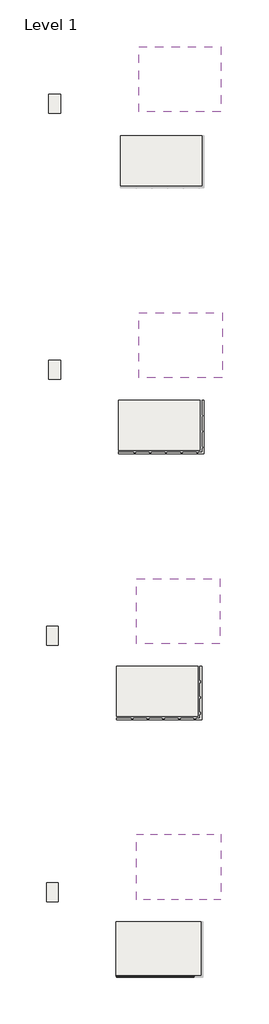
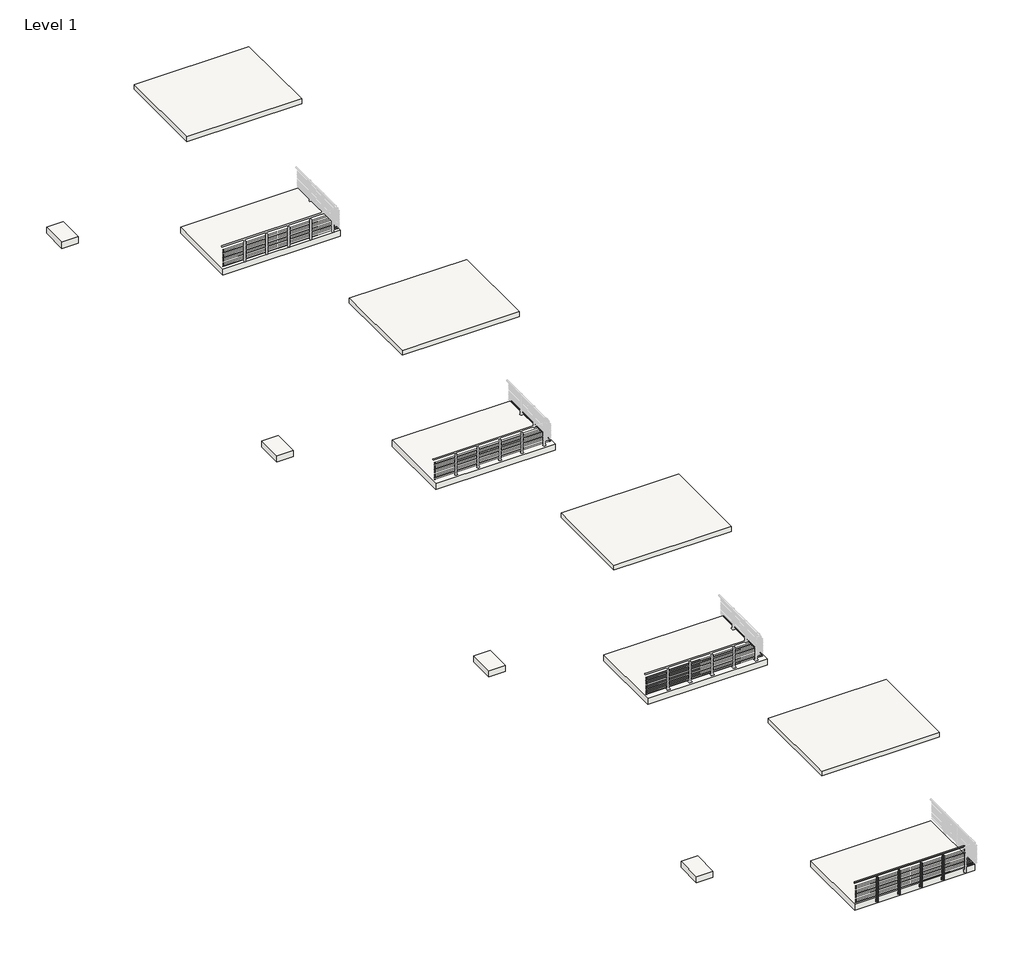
# One storey, part 1 of 9: 12 slabs, 1 railing.
"""IFC4 building model written with IfcOpenShell, lengths in millimetres."""

from ifc_helpers import new_model, si_unit, point, frame, frame_2d, origin, place, context, project, spatial, polyline, circle_curve, trimmed, segment, composite_curve, outline, extrude, element, save
from ifc_brep_helpers import plane_surface, cylinder_surface, advanced_brep

model = new_model("IFC4")

# Units and contexts
model_context = context("Model", 3, world=origin())
ifc_project = project(units=[si_unit("LENGTHUNIT", "METRE", prefix="MILLI")], contexts=[model_context])

# Site, building, storey
site = spatial("IfcSite", under=ifc_project)
building = spatial("IfcBuilding", under=site)
storey = spatial("IfcBuildingStorey", under=building, Name="Level 1", Elevation=0.0)

# Railing
placement = place(None, origin())
element("IfcRailing", 1, ObjectType="VIVA-TEE-Cable-Fascia Mount-Straight", at=placement, inside=storey, context=model_context, shape_type="SolidModel", body=[
    advanced_brep(
    [(-5400.3174408, -57199.6734719, 1054.1), (-5400.3174408, -57148.8734719, 1054.1), (-10480.3174408, -57148.8734719, 1054.1), (-10480.3174408, -57199.6734719, 1054.1), (-10490.0466343, -57199.6734719, 1054.1), (-10490.0466343, -57148.8734719, 1054.1)],
    [
        (0, 1, circle_curve(frame((-5400.3174408, -57174.2734719, 1054.1), z_axis=(1.0, 0.0, 0.0), x_axis=(0.0, 1.0, 0.0)), 25.4)),
        (1, 0, circle_curve(frame((-5400.3174408, -57174.2734719, 1054.1), z_axis=(1.0, 0.0, 0.0), x_axis=(0.0, 1.0, 0.0)), 25.4)),
        (2, 3, circle_curve(frame((-10480.3174408, -57174.2734719, 1054.1), z_axis=(1.0, 0.0, 0.0), x_axis=(0.0, 1.0, 0.0)), 25.4)),
        (3, 0),
        (1, 2),
        (3, 2, circle_curve(frame((-10480.3174408, -57174.2734719, 1054.1), z_axis=(1.0, 0.0, 0.0), x_axis=(0.0, 1.0, 0.0)), 25.4)),
        (4, 5, circle_curve(frame((-10490.0466343, -57174.2734719, 1054.1), z_axis=(-1.0, 0.0, 0.0), x_axis=(0.0, 1.0, 0.0)), 25.4)),
        (5, 4, circle_curve(frame((-10490.0466343, -57174.2734719, 1054.1), z_axis=(-1.0, 0.0, 0.0), x_axis=(0.0, 1.0, 0.0)), 25.4)),
        (4, 3),
        (2, 5),
    ],
    [
        plane_surface(frame((-5400.3174408, -57174.2734719, 1079.5), z_axis=(1.0, 0.0, 0.0), x_axis=(0.0, 1.0, 0.0))),
        cylinder_surface(frame((-10480.3174408, -57174.2734719, 1054.1), z_axis=(-1.0, 0.0, 0.0), x_axis=(0.0, 1.0, 0.0)), 25.4),
        plane_surface(frame((-10490.0466343, -57174.2734719, 1079.5), z_axis=(-1.0, 0.0, 0.0), x_axis=(0.0, 1.0, 0.0))),
        cylinder_surface(frame((-10490.0466343, -57174.2734719, 1054.1), z_axis=(-1.0, 0.0, 0.0), x_axis=(0.0, 1.0, 0.0)), 25.4),
    ],
    [
        (0, [[1, 2]]),
        (1, [[3, 4, -2, 5]]),
        (1, [[6, -5, -1, -4]]),
        (2, [[7, 8]]),
        (3, [[-7, 9, -3, 10]]),
        (3, [[-8, -10, -6, -9]]),
    ],
),
    extrude(outline(composite_curve([segment(trimmed(circle_curve(frame_2d((-57235.2334719, 937.4124)), 2.3876), [point((-57232.8458719, 937.4124))], [point((-57237.6210719, 937.4124))], False, "CARTESIAN"), True, "CONTINUOUS"), segment(trimmed(circle_curve(frame_2d((-57235.2334719, 937.4124)), 2.3876), [point((-57237.6210719, 937.4124))], [point((-57232.8458719, 937.4124))], False, "CARTESIAN"), True, "CONTINUOUS")], self_intersect=False)), frame((-10480.3174408, 0.0, 0.0), z_axis=(1.0, 0.0, 0.0), x_axis=(0.0, 1.0, 0.0)), (0.0, 0.0, 1.0), 5080.0),
    extrude(outline(composite_curve([segment(trimmed(circle_curve(frame_2d((-57235.2334719, 854.8624)), 2.3876), [point((-57232.8458719, 854.8624))], [point((-57237.6210719, 854.8624))], False, "CARTESIAN"), True, "CONTINUOUS"), segment(trimmed(circle_curve(frame_2d((-57235.2334719, 854.8624)), 2.3876), [point((-57237.6210719, 854.8624))], [point((-57232.8458719, 854.8624))], False, "CARTESIAN"), True, "CONTINUOUS")], self_intersect=False)), frame((-10480.3174408, 0.0, 0.0), z_axis=(1.0, 0.0, 0.0), x_axis=(0.0, 1.0, 0.0)), (0.0, 0.0, 1.0), 5080.0),
    extrude(outline(composite_curve([segment(trimmed(circle_curve(frame_2d((-57235.2334719, 772.3124)), 2.3876), [point((-57232.8458719, 772.3124))], [point((-57237.6210719, 772.3124))], False, "CARTESIAN"), True, "CONTINUOUS"), segment(trimmed(circle_curve(frame_2d((-57235.2334719, 772.3124)), 2.3876), [point((-57237.6210719, 772.3124))], [point((-57232.8458719, 772.3124))], False, "CARTESIAN"), True, "CONTINUOUS")], self_intersect=False)), frame((-10480.3174408, 0.0, 0.0), z_axis=(1.0, 0.0, 0.0), x_axis=(0.0, 1.0, 0.0)), (0.0, 0.0, 1.0), 5080.0),
    extrude(outline(composite_curve([segment(trimmed(circle_curve(frame_2d((-57235.2334719, 689.7624)), 2.3876), [point((-57232.8458719, 689.7624))], [point((-57237.6210719, 689.7624))], False, "CARTESIAN"), True, "CONTINUOUS"), segment(trimmed(circle_curve(frame_2d((-57235.2334719, 689.7624)), 2.3876), [point((-57237.6210719, 689.7624))], [point((-57232.8458719, 689.7624))], False, "CARTESIAN"), True, "CONTINUOUS")], self_intersect=False)), frame((-10480.3174408, 0.0, 0.0), z_axis=(1.0, 0.0, 0.0), x_axis=(0.0, 1.0, 0.0)), (0.0, 0.0, 1.0), 5080.0),
    extrude(outline(composite_curve([segment(trimmed(circle_curve(frame_2d((-57235.2334719, 607.2124)), 2.3876), [point((-57232.8458719, 607.2124))], [point((-57237.6210719, 607.2124))], False, "CARTESIAN"), True, "CONTINUOUS"), segment(trimmed(circle_curve(frame_2d((-57235.2334719, 607.2124)), 2.3876), [point((-57237.6210719, 607.2124))], [point((-57232.8458719, 607.2124))], False, "CARTESIAN"), True, "CONTINUOUS")], self_intersect=False)), frame((-10480.3174408, 0.0, 0.0), z_axis=(1.0, 0.0, 0.0), x_axis=(0.0, 1.0, 0.0)), (0.0, 0.0, 1.0), 5080.0),
    extrude(outline(composite_curve([segment(trimmed(circle_curve(frame_2d((-57235.2334719, 524.6624)), 2.3876), [point((-57232.8458719, 524.6624))], [point((-57237.6210719, 524.6624))], False, "CARTESIAN"), True, "CONTINUOUS"), segment(trimmed(circle_curve(frame_2d((-57235.2334719, 524.6624)), 2.3876), [point((-57237.6210719, 524.6624))], [point((-57232.8458719, 524.6624))], False, "CARTESIAN"), True, "CONTINUOUS")], self_intersect=False)), frame((-10480.3174408, 0.0, 0.0), z_axis=(1.0, 0.0, 0.0), x_axis=(0.0, 1.0, 0.0)), (0.0, 0.0, 1.0), 5080.0),
    extrude(outline(composite_curve([segment(trimmed(circle_curve(frame_2d((-57235.2334719, 442.1124)), 2.3876), [point((-57232.8458719, 442.1124))], [point((-57237.6210719, 442.1124))], False, "CARTESIAN"), True, "CONTINUOUS"), segment(trimmed(circle_curve(frame_2d((-57235.2334719, 442.1124)), 2.3876), [point((-57237.6210719, 442.1124))], [point((-57232.8458719, 442.1124))], False, "CARTESIAN"), True, "CONTINUOUS")], self_intersect=False)), frame((-10480.3174408, 0.0, 0.0), z_axis=(1.0, 0.0, 0.0), x_axis=(0.0, 1.0, 0.0)), (0.0, 0.0, 1.0), 5080.0),
    extrude(outline(composite_curve([segment(trimmed(circle_curve(frame_2d((-57235.2334719, 359.5624)), 2.3876), [point((-57232.8458719, 359.5624))], [point((-57237.6210719, 359.5624))], False, "CARTESIAN"), True, "CONTINUOUS"), segment(trimmed(circle_curve(frame_2d((-57235.2334719, 359.5624)), 2.3876), [point((-57237.6210719, 359.5624))], [point((-57232.8458719, 359.5624))], False, "CARTESIAN"), True, "CONTINUOUS")], self_intersect=False)), frame((-10480.3174408, 0.0, 0.0), z_axis=(1.0, 0.0, 0.0), x_axis=(0.0, 1.0, 0.0)), (0.0, 0.0, 1.0), 5080.0),
    extrude(outline(composite_curve([segment(trimmed(circle_curve(frame_2d((-57235.2334719, 277.0124)), 2.3876), [point((-57232.8458719, 277.0124))], [point((-57237.6210719, 277.0124))], False, "CARTESIAN"), True, "CONTINUOUS"), segment(trimmed(circle_curve(frame_2d((-57235.2334719, 277.0124)), 2.3876), [point((-57237.6210719, 277.0124))], [point((-57232.8458719, 277.0124))], False, "CARTESIAN"), True, "CONTINUOUS")], self_intersect=False)), frame((-10480.3174408, 0.0, 0.0), z_axis=(1.0, 0.0, 0.0), x_axis=(0.0, 1.0, 0.0)), (0.0, 0.0, 1.0), 5080.0),
    extrude(outline(composite_curve([segment(trimmed(circle_curve(frame_2d((-57235.2334719, 194.4624)), 2.3876), [point((-57232.8458719, 194.4624))], [point((-57237.6210719, 194.4624))], False, "CARTESIAN"), True, "CONTINUOUS"), segment(trimmed(circle_curve(frame_2d((-57235.2334719, 194.4624)), 2.3876), [point((-57237.6210719, 194.4624))], [point((-57232.8458719, 194.4624))], False, "CARTESIAN"), True, "CONTINUOUS")], self_intersect=False)), frame((-10480.3174408, 0.0, 0.0), z_axis=(1.0, 0.0, 0.0), x_axis=(0.0, 1.0, 0.0)), (0.0, 0.0, 1.0), 5080.0),
    extrude(outline(composite_curve([segment(trimmed(circle_curve(frame_2d((-57235.2334719, 111.9124)), 2.3876), [point((-57232.8458719, 111.9124))], [point((-57237.6210719, 111.9124))], False, "CARTESIAN"), True, "CONTINUOUS"), segment(trimmed(circle_curve(frame_2d((-57235.2334719, 111.9124)), 2.3876), [point((-57237.6210719, 111.9124))], [point((-57232.8458719, 111.9124))], False, "CARTESIAN"), True, "CONTINUOUS")], self_intersect=False)), frame((-10480.3174408, 0.0, 0.0), z_axis=(1.0, 0.0, 0.0), x_axis=(0.0, 1.0, 0.0)), (0.0, 0.0, 1.0), 5080.0),
    extrude(outline(composite_curve([segment(trimmed(circle_curve(frame_2d((0.0, 7.0)), 7.0), [point((0.0, 14.0))], [point((0.0, 0.0))], False, "CARTESIAN"), True, "CONTINUOUS"), segment(trimmed(circle_curve(frame_2d((0.0, 7.0)), 7.0), [point((0.0, 0.0))], [point((0.0, 14.0))], False, "CARTESIAN"), True, "CONTINUOUS")], self_intersect=False)), frame((-6416.2437309, -57181.6183256, 949.1832524), z_axis=(0.004253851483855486, 0.0, 0.9999909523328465), x_axis=(0.9999909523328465, 0.0, -0.004253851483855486)), (0.0, 0.0, 1.0), 75.97),
    extrude(outline(composite_curve([segment(trimmed(circle_curve(frame_2d((-57174.4769216, 1047.2025651)), 19.05), [point((-57188.0065099, 1033.7916463))], [point((-57160.9473334, 1033.7916463))], True, "CARTESIAN"), True, "CONTINUOUS"), segment(polyline([(-57160.9473334, 1033.7916463), (-57159.9209438, 1032.7742593)]), True, "CONTINUOUS"), segment(trimmed(circle_curve(frame_2d((-57160.9769216, 1031.7089374)), 1.5), [point((-57159.9209438, 1032.7742593))], [point((-57159.9915202, 1030.5780156))], False, "CARTESIAN"), True, "CONTINUOUS"), segment(trimmed(circle_curve(frame_2d((-57174.4769216, 1047.2025651)), 22.05), [point((-57159.9915202, 1030.5780156))], [point((-57188.9623231, 1030.5780156))], False, "CARTESIAN"), True, "CONTINUOUS"), segment(trimmed(circle_curve(frame_2d((-57187.9769216, 1031.7089374)), 1.5), [point((-57188.9623231, 1030.5780156))], [point((-57189.0328995, 1032.7742593))], False, "CARTESIAN"), True, "CONTINUOUS"), segment(polyline([(-57189.0328995, 1032.7742593), (-57188.0065099, 1033.7916463)]), True, "CONTINUOUS")], self_intersect=False)), frame((-6451.7822051, 0.0, 0.0), z_axis=(1.0, 0.0, 0.0), x_axis=(0.0, 1.0, 0.0)), (0.0, 0.0, 1.0), 74.5229187),
    extrude(outline(composite_curve([segment(trimmed(circle_curve(frame_2d((976.1259188, -6416.0394005)), 12.5), [point((976.1259188, -6428.5394005))], [point((976.1259188, -6403.5394005))], False, "CARTESIAN"), True, "CONTINUOUS"), segment(trimmed(circle_curve(frame_2d((976.1259188, -6416.0394005)), 12.5), [point((976.1259188, -6403.5394005))], [point((976.1259188, -6428.5394005))], False, "CARTESIAN"), True, "CONTINUOUS")], self_intersect=False)), frame((0.0, -57254.3843116, 0.0), z_axis=(0.0, 1.0, 0.0), x_axis=(0.0, 0.0, 1.0)), (0.0, 0.0, 1.0), 92.423),
    extrude(outline(polyline([(-6352.4205658, -57184.4334719), (-6352.4205658, -57197.3159234), (-6479.4205658, -57197.3159234), (-6479.4205658, -57184.4334719), (-6352.4205658, -57184.4334719)])), frame((0.0, 0.0, -196.85), z_axis=(0.0, 0.0, 1.0), x_axis=(1.0, 0.0, 0.0)), (0.0, 0.0, 1.0), 127.0),
    extrude(outline(composite_curve([segment(trimmed(circle_curve(frame_2d((-57228.2180203, 924.2425)), 24.765), [point((-57228.2180203, 949.0075))], [point((-57203.4530203, 924.2425))], False, "CARTESIAN"), True, "CONTINUOUS"), segment(polyline([(-57203.4530203, 924.2425), (-57203.4530203, -196.85), (-57254.2834719, -196.85), (-57254.2834719, 949.0075), (-57228.2180203, 949.0075)]), True, "CONTINUOUS")], self_intersect=False)), frame((-6401.9170662, 0.0, 0.0), z_axis=(1.0, 0.0, 0.0), x_axis=(0.0, 1.0, 0.0)), (0.0, 0.0, 1.0), 9.525),
    extrude(outline(polyline([(-6411.1580658, -57197.3159234), (-6352.4205658, -57197.3159234), (-6352.4205658, -57205.2534234), (-6403.2205658, -57205.2534234), (-6403.2205658, -57254.2834719), (-6411.1580658, -57254.2834719), (-6411.1580658, -57197.3159234)])), frame((0.0, 0.0, -196.85), z_axis=(0.0, 0.0, 1.0), x_axis=(1.0, 0.0, 0.0)), (0.0, 0.0, 1.0), 127.0),
    extrude(outline(polyline([(-6420.6830658, -57197.3159234), (-6420.6830658, -57254.2834719), (-6428.6205658, -57254.2834719), (-6428.6205658, -57205.2534234), (-6479.4205658, -57205.2534234), (-6479.4205658, -57197.3159234), (-6420.6830658, -57197.3159234)])), frame((0.0, 0.0, -196.85), z_axis=(0.0, 0.0, 1.0), x_axis=(1.0, 0.0, 0.0)), (0.0, 0.0, 1.0), 127.0),
    extrude(outline(composite_curve([segment(polyline([(-196.85, -6390.5205658), (979.17, -6390.5205658)]), True, "CONTINUOUS"), segment(trimmed(circle_curve(frame_2d((979.17, -6415.9205658)), 25.4), [point((979.17, -6390.5205658))], [point((979.17, -6441.3205658))], False, "CARTESIAN"), True, "CONTINUOUS"), segment(polyline([(979.17, -6441.3205658), (-196.85, -6441.3205658), (-196.85, -6390.5205658)]), True, "CONTINUOUS")], self_intersect=False)), frame((0.0, -57263.8084719, 0.0), z_axis=(0.0, 1.0, 0.0), x_axis=(0.0, 0.0, 1.0)), (0.0, 0.0, 1.0), 9.525),
    extrude(outline(composite_curve([segment(trimmed(circle_curve(frame_2d((-57228.2180203, 924.2425)), 24.765), [point((-57228.2180203, 949.0075))], [point((-57203.4530203, 924.2425))], False, "CARTESIAN"), True, "CONTINUOUS"), segment(polyline([(-57203.4530203, 924.2425), (-57203.4530203, -196.85), (-57254.2834719, -196.85), (-57254.2834719, 949.0075), (-57228.2180203, 949.0075)]), True, "CONTINUOUS")], self_intersect=False)), frame((-6439.4490654, 0.0, 0.0), z_axis=(1.0, 0.0, 0.0), x_axis=(0.0, 1.0, 0.0)), (0.0, 0.0, 1.0), 9.525),
    extrude(outline(composite_curve([segment(trimmed(circle_curve(frame_2d((0.0, 7.0)), 7.0), [point((0.0, 14.0))], [point((0.0, 0.0))], False, "CARTESIAN"), True, "CONTINUOUS"), segment(trimmed(circle_curve(frame_2d((0.0, 7.0)), 7.0), [point((0.0, 0.0))], [point((0.0, 14.0))], False, "CARTESIAN"), True, "CONTINUOUS")], self_intersect=False)), frame((-7432.2437309, -57181.6183256, 949.1832524), z_axis=(0.004253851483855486, 0.0, 0.9999909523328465), x_axis=(0.9999909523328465, 0.0, -0.004253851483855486)), (0.0, 0.0, 1.0), 75.97),
    extrude(outline(composite_curve([segment(trimmed(circle_curve(frame_2d((-57174.4769216, 1047.2025651)), 19.05), [point((-57188.0065099, 1033.7916463))], [point((-57160.9473334, 1033.7916463))], True, "CARTESIAN"), True, "CONTINUOUS"), segment(polyline([(-57160.9473334, 1033.7916463), (-57159.9209438, 1032.7742593)]), True, "CONTINUOUS"), segment(trimmed(circle_curve(frame_2d((-57160.9769216, 1031.7089374)), 1.5), [point((-57159.9209438, 1032.7742593))], [point((-57159.9915202, 1030.5780156))], False, "CARTESIAN"), True, "CONTINUOUS"), segment(trimmed(circle_curve(frame_2d((-57174.4769216, 1047.2025651)), 22.05), [point((-57159.9915202, 1030.5780156))], [point((-57188.9623231, 1030.5780156))], False, "CARTESIAN"), True, "CONTINUOUS"), segment(trimmed(circle_curve(frame_2d((-57187.9769216, 1031.7089374)), 1.5), [point((-57188.9623231, 1030.5780156))], [point((-57189.0328995, 1032.7742593))], False, "CARTESIAN"), True, "CONTINUOUS"), segment(polyline([(-57189.0328995, 1032.7742593), (-57188.0065099, 1033.7916463)]), True, "CONTINUOUS")], self_intersect=False)), frame((-7467.7822051, 0.0, 0.0), z_axis=(1.0, 0.0, 0.0), x_axis=(0.0, 1.0, 0.0)), (0.0, 0.0, 1.0), 74.5229187),
    extrude(outline(composite_curve([segment(trimmed(circle_curve(frame_2d((976.1259188, -7432.0394005)), 12.5), [point((976.1259188, -7444.5394005))], [point((976.1259188, -7419.5394005))], False, "CARTESIAN"), True, "CONTINUOUS"), segment(trimmed(circle_curve(frame_2d((976.1259188, -7432.0394005)), 12.5), [point((976.1259188, -7419.5394005))], [point((976.1259188, -7444.5394005))], False, "CARTESIAN"), True, "CONTINUOUS")], self_intersect=False)), frame((0.0, -57254.3843116, 0.0), z_axis=(0.0, 1.0, 0.0), x_axis=(0.0, 0.0, 1.0)), (0.0, 0.0, 1.0), 92.423),
    extrude(outline(polyline([(-7368.4205658, -57184.4334719), (-7368.4205658, -57197.3159234), (-7495.4205658, -57197.3159234), (-7495.4205658, -57184.4334719), (-7368.4205658, -57184.4334719)])), frame((0.0, 0.0, -196.85), z_axis=(0.0, 0.0, 1.0), x_axis=(1.0, 0.0, 0.0)), (0.0, 0.0, 1.0), 127.0),
    extrude(outline(composite_curve([segment(trimmed(circle_curve(frame_2d((-57228.2180203, 924.2425)), 24.765), [point((-57228.2180203, 949.0075))], [point((-57203.4530203, 924.2425))], False, "CARTESIAN"), True, "CONTINUOUS"), segment(polyline([(-57203.4530203, 924.2425), (-57203.4530203, -196.85), (-57254.2834719, -196.85), (-57254.2834719, 949.0075), (-57228.2180203, 949.0075)]), True, "CONTINUOUS")], self_intersect=False)), frame((-7417.9170662, 0.0, 0.0), z_axis=(1.0, 0.0, 0.0), x_axis=(0.0, 1.0, 0.0)), (0.0, 0.0, 1.0), 9.525),
    extrude(outline(polyline([(-7427.1580658, -57197.3159234), (-7368.4205658, -57197.3159234), (-7368.4205658, -57205.2534234), (-7419.2205658, -57205.2534234), (-7419.2205658, -57254.2834719), (-7427.1580658, -57254.2834719), (-7427.1580658, -57197.3159234)])), frame((0.0, 0.0, -196.85), z_axis=(0.0, 0.0, 1.0), x_axis=(1.0, 0.0, 0.0)), (0.0, 0.0, 1.0), 127.0),
    extrude(outline(polyline([(-7436.6830658, -57197.3159234), (-7436.6830658, -57254.2834719), (-7444.6205658, -57254.2834719), (-7444.6205658, -57205.2534234), (-7495.4205658, -57205.2534234), (-7495.4205658, -57197.3159234), (-7436.6830658, -57197.3159234)])), frame((0.0, 0.0, -196.85), z_axis=(0.0, 0.0, 1.0), x_axis=(1.0, 0.0, 0.0)), (0.0, 0.0, 1.0), 127.0),
    extrude(outline(composite_curve([segment(polyline([(-196.85, -7406.5205658), (979.17, -7406.5205658)]), True, "CONTINUOUS"), segment(trimmed(circle_curve(frame_2d((979.17, -7431.9205658)), 25.4), [point((979.17, -7406.5205658))], [point((979.17, -7457.3205658))], False, "CARTESIAN"), True, "CONTINUOUS"), segment(polyline([(979.17, -7457.3205658), (-196.85, -7457.3205658), (-196.85, -7406.5205658)]), True, "CONTINUOUS")], self_intersect=False)), frame((0.0, -57263.8084719, 0.0), z_axis=(0.0, 1.0, 0.0), x_axis=(0.0, 0.0, 1.0)), (0.0, 0.0, 1.0), 9.525),
    extrude(outline(composite_curve([segment(trimmed(circle_curve(frame_2d((-57228.2180203, 924.2425)), 24.765), [point((-57228.2180203, 949.0075))], [point((-57203.4530203, 924.2425))], False, "CARTESIAN"), True, "CONTINUOUS"), segment(polyline([(-57203.4530203, 924.2425), (-57203.4530203, -196.85), (-57254.2834719, -196.85), (-57254.2834719, 949.0075), (-57228.2180203, 949.0075)]), True, "CONTINUOUS")], self_intersect=False)), frame((-7455.4490654, 0.0, 0.0), z_axis=(1.0, 0.0, 0.0), x_axis=(0.0, 1.0, 0.0)), (0.0, 0.0, 1.0), 9.525),
    extrude(outline(composite_curve([segment(trimmed(circle_curve(frame_2d((0.0, 7.0)), 7.0), [point((0.0, 14.0))], [point((0.0, 0.0))], False, "CARTESIAN"), True, "CONTINUOUS"), segment(trimmed(circle_curve(frame_2d((0.0, 7.0)), 7.0), [point((0.0, 0.0))], [point((0.0, 14.0))], False, "CARTESIAN"), True, "CONTINUOUS")], self_intersect=False)), frame((-8448.2437309, -57181.6183256, 949.1832524), z_axis=(0.004253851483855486, 0.0, 0.9999909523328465), x_axis=(0.9999909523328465, 0.0, -0.004253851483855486)), (0.0, 0.0, 1.0), 75.97),
    extrude(outline(composite_curve([segment(trimmed(circle_curve(frame_2d((-57174.4769216, 1047.2025651)), 19.05), [point((-57188.0065099, 1033.7916463))], [point((-57160.9473334, 1033.7916463))], True, "CARTESIAN"), True, "CONTINUOUS"), segment(polyline([(-57160.9473334, 1033.7916463), (-57159.9209438, 1032.7742593)]), True, "CONTINUOUS"), segment(trimmed(circle_curve(frame_2d((-57160.9769216, 1031.7089374)), 1.5), [point((-57159.9209438, 1032.7742593))], [point((-57159.9915202, 1030.5780156))], False, "CARTESIAN"), True, "CONTINUOUS"), segment(trimmed(circle_curve(frame_2d((-57174.4769216, 1047.2025651)), 22.05), [point((-57159.9915202, 1030.5780156))], [point((-57188.9623231, 1030.5780156))], False, "CARTESIAN"), True, "CONTINUOUS"), segment(trimmed(circle_curve(frame_2d((-57187.9769216, 1031.7089374)), 1.5), [point((-57188.9623231, 1030.5780156))], [point((-57189.0328995, 1032.7742593))], False, "CARTESIAN"), True, "CONTINUOUS"), segment(polyline([(-57189.0328995, 1032.7742593), (-57188.0065099, 1033.7916463)]), True, "CONTINUOUS")], self_intersect=False)), frame((-8483.7822051, 0.0, 0.0), z_axis=(1.0, 0.0, 0.0), x_axis=(0.0, 1.0, 0.0)), (0.0, 0.0, 1.0), 74.5229187),
    extrude(outline(composite_curve([segment(trimmed(circle_curve(frame_2d((976.1259188, -8448.0394005)), 12.5), [point((976.1259188, -8460.5394005))], [point((976.1259188, -8435.5394005))], False, "CARTESIAN"), True, "CONTINUOUS"), segment(trimmed(circle_curve(frame_2d((976.1259188, -8448.0394005)), 12.5), [point((976.1259188, -8435.5394005))], [point((976.1259188, -8460.5394005))], False, "CARTESIAN"), True, "CONTINUOUS")], self_intersect=False)), frame((0.0, -57254.3843116, 0.0), z_axis=(0.0, 1.0, 0.0), x_axis=(0.0, 0.0, 1.0)), (0.0, 0.0, 1.0), 92.423),
    extrude(outline(polyline([(-8384.4205658, -57184.4334719), (-8384.4205658, -57197.3159234), (-8511.4205658, -57197.3159234), (-8511.4205658, -57184.4334719), (-8384.4205658, -57184.4334719)])), frame((0.0, 0.0, -196.85), z_axis=(0.0, 0.0, 1.0), x_axis=(1.0, 0.0, 0.0)), (0.0, 0.0, 1.0), 127.0),
    extrude(outline(composite_curve([segment(trimmed(circle_curve(frame_2d((-57228.2180203, 924.2425)), 24.765), [point((-57228.2180203, 949.0075))], [point((-57203.4530203, 924.2425))], False, "CARTESIAN"), True, "CONTINUOUS"), segment(polyline([(-57203.4530203, 924.2425), (-57203.4530203, -196.85), (-57254.2834719, -196.85), (-57254.2834719, 949.0075), (-57228.2180203, 949.0075)]), True, "CONTINUOUS")], self_intersect=False)), frame((-8433.9170662, 0.0, 0.0), z_axis=(1.0, 0.0, 0.0), x_axis=(0.0, 1.0, 0.0)), (0.0, 0.0, 1.0), 9.525),
    extrude(outline(polyline([(-8443.1580658, -57197.3159234), (-8384.4205658, -57197.3159234), (-8384.4205658, -57205.2534234), (-8435.2205658, -57205.2534234), (-8435.2205658, -57254.2834719), (-8443.1580658, -57254.2834719), (-8443.1580658, -57197.3159234)])), frame((0.0, 0.0, -196.85), z_axis=(0.0, 0.0, 1.0), x_axis=(1.0, 0.0, 0.0)), (0.0, 0.0, 1.0), 127.0),
    extrude(outline(polyline([(-8452.6830658, -57197.3159234), (-8452.6830658, -57254.2834719), (-8460.6205658, -57254.2834719), (-8460.6205658, -57205.2534234), (-8511.4205658, -57205.2534234), (-8511.4205658, -57197.3159234), (-8452.6830658, -57197.3159234)])), frame((0.0, 0.0, -196.85), z_axis=(0.0, 0.0, 1.0), x_axis=(1.0, 0.0, 0.0)), (0.0, 0.0, 1.0), 127.0),
    extrude(outline(composite_curve([segment(polyline([(-196.85, -8422.5205658), (979.17, -8422.5205658)]), True, "CONTINUOUS"), segment(trimmed(circle_curve(frame_2d((979.17, -8447.9205658)), 25.4), [point((979.17, -8422.5205658))], [point((979.17, -8473.3205658))], False, "CARTESIAN"), True, "CONTINUOUS"), segment(polyline([(979.17, -8473.3205658), (-196.85, -8473.3205658), (-196.85, -8422.5205658)]), True, "CONTINUOUS")], self_intersect=False)), frame((0.0, -57263.8084719, 0.0), z_axis=(0.0, 1.0, 0.0), x_axis=(0.0, 0.0, 1.0)), (0.0, 0.0, 1.0), 9.525),
    extrude(outline(composite_curve([segment(trimmed(circle_curve(frame_2d((-57228.2180203, 924.2425)), 24.765), [point((-57228.2180203, 949.0075))], [point((-57203.4530203, 924.2425))], False, "CARTESIAN"), True, "CONTINUOUS"), segment(polyline([(-57203.4530203, 924.2425), (-57203.4530203, -196.85), (-57254.2834719, -196.85), (-57254.2834719, 949.0075), (-57228.2180203, 949.0075)]), True, "CONTINUOUS")], self_intersect=False)), frame((-8471.4490654, 0.0, 0.0), z_axis=(1.0, 0.0, 0.0), x_axis=(0.0, 1.0, 0.0)), (0.0, 0.0, 1.0), 9.525),
    extrude(outline(composite_curve([segment(trimmed(circle_curve(frame_2d((0.0, 7.0)), 7.0), [point((0.0, 14.0))], [point((0.0, 0.0))], False, "CARTESIAN"), True, "CONTINUOUS"), segment(trimmed(circle_curve(frame_2d((0.0, 7.0)), 7.0), [point((0.0, 0.0))], [point((0.0, 14.0))], False, "CARTESIAN"), True, "CONTINUOUS")], self_intersect=False)), frame((-9464.2437309, -57181.6183256, 949.1832524), z_axis=(0.004253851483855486, 0.0, 0.9999909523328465), x_axis=(0.9999909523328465, 0.0, -0.004253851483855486)), (0.0, 0.0, 1.0), 75.97),
    extrude(outline(composite_curve([segment(trimmed(circle_curve(frame_2d((-57174.4769216, 1047.2025651)), 19.05), [point((-57188.0065099, 1033.7916463))], [point((-57160.9473334, 1033.7916463))], True, "CARTESIAN"), True, "CONTINUOUS"), segment(polyline([(-57160.9473334, 1033.7916463), (-57159.9209438, 1032.7742593)]), True, "CONTINUOUS"), segment(trimmed(circle_curve(frame_2d((-57160.9769216, 1031.7089374)), 1.5), [point((-57159.9209438, 1032.7742593))], [point((-57159.9915202, 1030.5780156))], False, "CARTESIAN"), True, "CONTINUOUS"), segment(trimmed(circle_curve(frame_2d((-57174.4769216, 1047.2025651)), 22.05), [point((-57159.9915202, 1030.5780156))], [point((-57188.9623231, 1030.5780156))], False, "CARTESIAN"), True, "CONTINUOUS"), segment(trimmed(circle_curve(frame_2d((-57187.9769216, 1031.7089374)), 1.5), [point((-57188.9623231, 1030.5780156))], [point((-57189.0328995, 1032.7742593))], False, "CARTESIAN"), True, "CONTINUOUS"), segment(polyline([(-57189.0328995, 1032.7742593), (-57188.0065099, 1033.7916463)]), True, "CONTINUOUS")], self_intersect=False)), frame((-9499.7822051, 0.0, 0.0), z_axis=(1.0, 0.0, 0.0), x_axis=(0.0, 1.0, 0.0)), (0.0, 0.0, 1.0), 74.5229187),
    extrude(outline(composite_curve([segment(trimmed(circle_curve(frame_2d((976.1259188, -9464.0394005)), 12.5), [point((976.1259188, -9476.5394005))], [point((976.1259188, -9451.5394005))], False, "CARTESIAN"), True, "CONTINUOUS"), segment(trimmed(circle_curve(frame_2d((976.1259188, -9464.0394005)), 12.5), [point((976.1259188, -9451.5394005))], [point((976.1259188, -9476.5394005))], False, "CARTESIAN"), True, "CONTINUOUS")], self_intersect=False)), frame((0.0, -57254.3843116, 0.0), z_axis=(0.0, 1.0, 0.0), x_axis=(0.0, 0.0, 1.0)), (0.0, 0.0, 1.0), 92.423),
    extrude(outline(polyline([(-9400.4205658, -57184.4334719), (-9400.4205658, -57197.3159234), (-9527.4205658, -57197.3159234), (-9527.4205658, -57184.4334719), (-9400.4205658, -57184.4334719)])), frame((0.0, 0.0, -196.85), z_axis=(0.0, 0.0, 1.0), x_axis=(1.0, 0.0, 0.0)), (0.0, 0.0, 1.0), 127.0),
    extrude(outline(composite_curve([segment(trimmed(circle_curve(frame_2d((-57228.2180203, 924.2425)), 24.765), [point((-57228.2180203, 949.0075))], [point((-57203.4530203, 924.2425))], False, "CARTESIAN"), True, "CONTINUOUS"), segment(polyline([(-57203.4530203, 924.2425), (-57203.4530203, -196.85), (-57254.2834719, -196.85), (-57254.2834719, 949.0075), (-57228.2180203, 949.0075)]), True, "CONTINUOUS")], self_intersect=False)), frame((-9449.9170662, 0.0, 0.0), z_axis=(1.0, 0.0, 0.0), x_axis=(0.0, 1.0, 0.0)), (0.0, 0.0, 1.0), 9.525),
    extrude(outline(polyline([(-9459.1580658, -57197.3159234), (-9400.4205658, -57197.3159234), (-9400.4205658, -57205.2534234), (-9451.2205658, -57205.2534234), (-9451.2205658, -57254.2834719), (-9459.1580658, -57254.2834719), (-9459.1580658, -57197.3159234)])), frame((0.0, 0.0, -196.85), z_axis=(0.0, 0.0, 1.0), x_axis=(1.0, 0.0, 0.0)), (0.0, 0.0, 1.0), 127.0),
    extrude(outline(polyline([(-9468.6830658, -57197.3159234), (-9468.6830658, -57254.2834719), (-9476.6205658, -57254.2834719), (-9476.6205658, -57205.2534234), (-9527.4205658, -57205.2534234), (-9527.4205658, -57197.3159234), (-9468.6830658, -57197.3159234)])), frame((0.0, 0.0, -196.85), z_axis=(0.0, 0.0, 1.0), x_axis=(1.0, 0.0, 0.0)), (0.0, 0.0, 1.0), 127.0),
    extrude(outline(composite_curve([segment(polyline([(-196.85, -9438.5205658), (979.17, -9438.5205658)]), True, "CONTINUOUS"), segment(trimmed(circle_curve(frame_2d((979.17, -9463.9205658)), 25.4), [point((979.17, -9438.5205658))], [point((979.17, -9489.3205658))], False, "CARTESIAN"), True, "CONTINUOUS"), segment(polyline([(979.17, -9489.3205658), (-196.85, -9489.3205658), (-196.85, -9438.5205658)]), True, "CONTINUOUS")], self_intersect=False)), frame((0.0, -57263.8084719, 0.0), z_axis=(0.0, 1.0, 0.0), x_axis=(0.0, 0.0, 1.0)), (0.0, 0.0, 1.0), 9.525),
    extrude(outline(composite_curve([segment(trimmed(circle_curve(frame_2d((-57228.2180203, 924.2425)), 24.765), [point((-57228.2180203, 949.0075))], [point((-57203.4530203, 924.2425))], False, "CARTESIAN"), True, "CONTINUOUS"), segment(polyline([(-57203.4530203, 924.2425), (-57203.4530203, -196.85), (-57254.2834719, -196.85), (-57254.2834719, 949.0075), (-57228.2180203, 949.0075)]), True, "CONTINUOUS")], self_intersect=False)), frame((-9487.4490654, 0.0, 0.0), z_axis=(1.0, 0.0, 0.0), x_axis=(0.0, 1.0, 0.0)), (0.0, 0.0, 1.0), 9.525),
])

# Slabs
element("IfcSlab", 2, ObjectType="Generic", at=placement, inside=storey, context=model_context, shape_type="SweptSolid", body=[
    extrude(outline(polyline([(-3714.7759195, -52244.4426165), (-9164.1164794, -52244.4426165), (-9164.1164794, -47976.2518108), (-3714.7759195, -47976.2518108), (-3714.7759195, -52244.4426165)])), frame((0.0, 0.0, 2818.13), z_axis=(0.0, 0.0, 1.0), x_axis=(1.0, 0.0, 0.0)), (0.0, 0.0, 1.0), 229.87),
])
element("IfcSlab", 3, ObjectType="Generic", at=placement, inside=storey, context=model_context, shape_type="SweptSolid", body=[
    extrude(outline(polyline([(-3752.0021474, -35644.281782), (-9175.9427073, -35644.281782), (-9175.9427073, -31420.8203763), (-3752.0021474, -31420.8203763), (-3752.0021474, -35644.281782)])), frame((0.0, 0.0, 2818.13), z_axis=(0.0, 0.0, 1.0), x_axis=(1.0, 0.0, 0.0)), (0.0, 0.0, 1.0), 229.87),
])
element("IfcSlab", 4, ObjectType="Generic", at=placement, inside=storey, context=model_context, shape_type="SweptSolid", body=[
    extrude(outline(polyline([(-3598.8997163, -18411.6426165), (-9023.5427073, -18411.6426165), (-9023.5427073, -14188.1812108), (-3598.8997163, -14188.1812108), (-3598.8997163, -18411.6426165)])), frame((0.0, 0.0, 2818.13), z_axis=(0.0, 0.0, 1.0), x_axis=(1.0, 0.0, 0.0)), (0.0, 0.0, 1.0), 229.87),
])
element("IfcSlab", 5, ObjectType="Generic", at=placement, inside=storey, context=model_context, shape_type="SweptSolid", body=[
    extrude(outline(polyline([(-3713.1997163, -1179.0034511), (-9023.5427073, -1179.0034511), (-9023.5427073, 3044.4579546), (-3713.1997163, 3044.4579546), (-3713.1997163, -1179.0034511)])), frame((0.0, 0.0, 2818.13), z_axis=(0.0, 0.0, 1.0), x_axis=(1.0, 0.0, 0.0)), (0.0, 0.0, 1.0), 229.87),
])
element("IfcSlab", 6, ObjectType="Generic - 7 3/4\"", at=placement, inside=storey, context=model_context, shape_type="SweptSolid", body=[
    extrude(outline(polyline([(-4933.3882474, -57184.4334719), (-10490.0466343, -57184.4334719), (-10490.0466343, -53669.5042784), (-4933.3882474, -53669.5042784), (-4933.3882474, -57184.4334719)])), frame((0.0, 0.0, -296.7736), z_axis=(0.0, 0.0, 1.0), x_axis=(1.0, 0.0, 0.0)), (0.0, 0.0, 1.0), 296.7736),
])
element("IfcSlab", 7, ObjectType="Generic - 7 3/4\"", at=placement, inside=storey, context=model_context, shape_type="SweptSolid", body=[
    extrude(outline(polyline([(-4945.2144753, -40584.2726373), (-10476.4728622, -40584.2726373), (-10476.4728622, -37094.7434438), (-4945.2144753, -37094.7434438), (-4945.2144753, -40584.2726373)])), frame((0.0, 0.0, -296.7736), z_axis=(0.0, 0.0, 1.0), x_axis=(1.0, 0.0, 0.0)), (0.0, 0.0, 1.0), 296.7736),
])
element("IfcSlab", 8, ObjectType="Generic - 7 3/4\"", at=placement, inside=storey, context=model_context, shape_type="SweptSolid", body=[
    extrude(outline(polyline([(-4792.8144753, -23351.6334719), (-10325.4777245, -23351.6334719), (-10325.4777245, -19861.4018473), (-4792.8144753, -19861.4018473), (-4792.8144753, -23351.6334719)])), frame((0.0, 0.0, -296.7736), z_axis=(0.0, 0.0, 1.0), x_axis=(1.0, 0.0, 0.0)), (0.0, 0.0, 1.0), 296.7736),
])
element("IfcSlab", 9, ObjectType="Generic - 7 3/4\"", at=placement, inside=storey, context=model_context, shape_type="SweptSolid", body=[
    extrude(outline(polyline([(-14244.2503044, -52346.0426165), (-15006.2503044, -52346.0426165), (-15006.2503044, -51126.8426165), (-14244.2503044, -51126.8426165), (-14244.2503044, -52346.0426165)])), frame((0.0, 0.0, -296.7736), z_axis=(0.0, 0.0, 1.0), x_axis=(1.0, 0.0, 0.0)), (0.0, 0.0, 1.0), 296.7736),
])
element("IfcSlab", 10, ObjectType="Generic - 7 3/4\"", at=placement, inside=storey, context=model_context, shape_type="SweptSolid", body=[
    extrude(outline(polyline([(-14256.0765324, -35745.881782), (-15018.0765324, -35745.881782), (-15018.0765324, -34526.681782), (-14256.0765324, -34526.681782), (-14256.0765324, -35745.881782)])), frame((0.0, 0.0, -296.7736), z_axis=(0.0, 0.0, 1.0), x_axis=(1.0, 0.0, 0.0)), (0.0, 0.0, 1.0), 296.7736),
])
element("IfcSlab", 11, ObjectType="Generic - 7 3/4\"", at=placement, inside=storey, context=model_context, shape_type="SweptSolid", body=[
    extrude(outline(polyline([(-14103.6765324, -18513.2426165), (-14865.6765324, -18513.2426165), (-14865.6765324, -17294.0426165), (-14103.6765324, -17294.0426165), (-14103.6765324, -18513.2426165)])), frame((0.0, 0.0, -296.7736), z_axis=(0.0, 0.0, 1.0), x_axis=(1.0, 0.0, 0.0)), (0.0, 0.0, 1.0), 296.7736),
])
element("IfcSlab", 12, ObjectType="Generic - 7 3/4\"", at=placement, inside=storey, context=model_context, shape_type="SweptSolid", body=[
    extrude(outline(polyline([(-4792.8144753, -6118.9943064), (-10211.1777245, -6118.9943064), (-10211.1777245, -2743.0626818), (-4792.8144753, -2743.0626818), (-4792.8144753, -6118.9943064)])), frame((0.0, 0.0, -296.7736), z_axis=(0.0, 0.0, 1.0), x_axis=(1.0, 0.0, 0.0)), (0.0, 0.0, 1.0), 296.7736),
])
element("IfcSlab", 13, ObjectType="Generic - 7 3/4\"", at=placement, inside=storey, context=model_context, shape_type="SweptSolid", body=[
    extrude(outline(polyline([(-14103.6765324, -1280.6034511), (-14865.6765324, -1280.6034511), (-14865.6765324, -61.4034511), (-14103.6765324, -61.4034511), (-14103.6765324, -1280.6034511)])), frame((0.0, 0.0, -296.7736), z_axis=(0.0, 0.0, 1.0), x_axis=(1.0, 0.0, 0.0)), (0.0, 0.0, 1.0), 296.7736),
])

save(model, "model.ifc")
